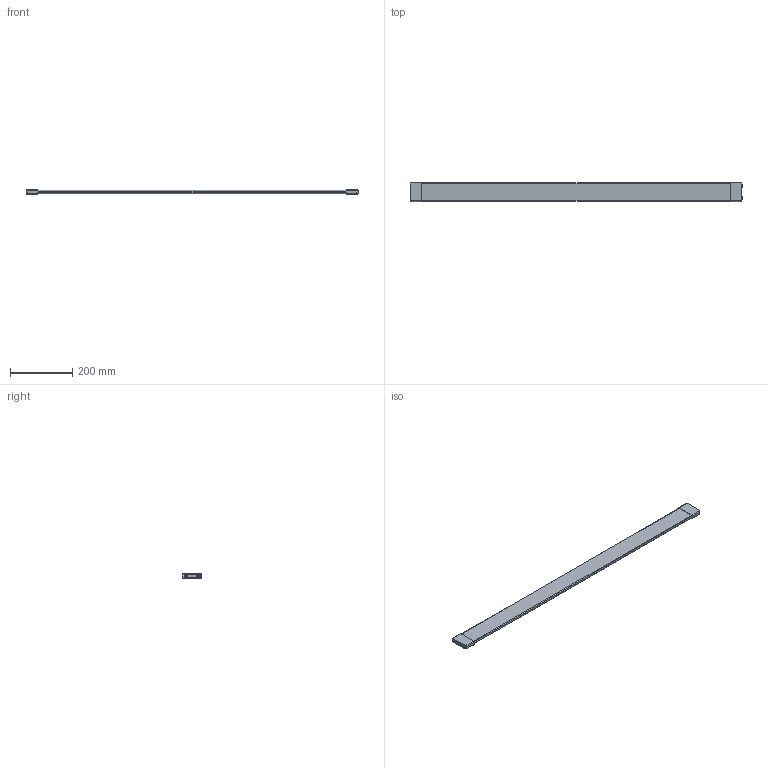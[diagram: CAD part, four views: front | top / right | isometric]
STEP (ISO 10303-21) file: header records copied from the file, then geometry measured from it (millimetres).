
FILE_DESCRIPTION (( 'STEP AP214' ), '1' );
FILE_NAME ('Schubkastenteiler_PROKAB_1150.step', '2009-11-04T15:16:57', ( 'Waldinger Reinhard' ), ( 'Grass GmbH' ), 'SwSTEP 2.0', 'SolidWorks 2009', '' );
FILE_SCHEMA (( 'AUTOMOTIVE_DESIGN' ));
Length unit declared in the file: millimetre
Products named in the file (1): Schubkastenteiler_PROKAB_1150
Bounding box: 1067.9 x 63.7 x 13 mm (x, y, z)
Volume: 639149.5 mm3; surface area: 147723.6 mm2
Topology: 1 solids, 1 shells, 92 faces, 208 edges, 124 vertices
Faces by surface type: cylinder 38, torus 28, plane 22, bspline 4
Entity records: 3210 total; most frequent: CARTESIAN_POINT 1069, DIRECTION 486, ORIENTED_EDGE 416, EDGE_CURVE 208, AXIS2_PLACEMENT_3D 205, VERTEX_POINT 124, CIRCLE 116, EDGE_LOOP 98
